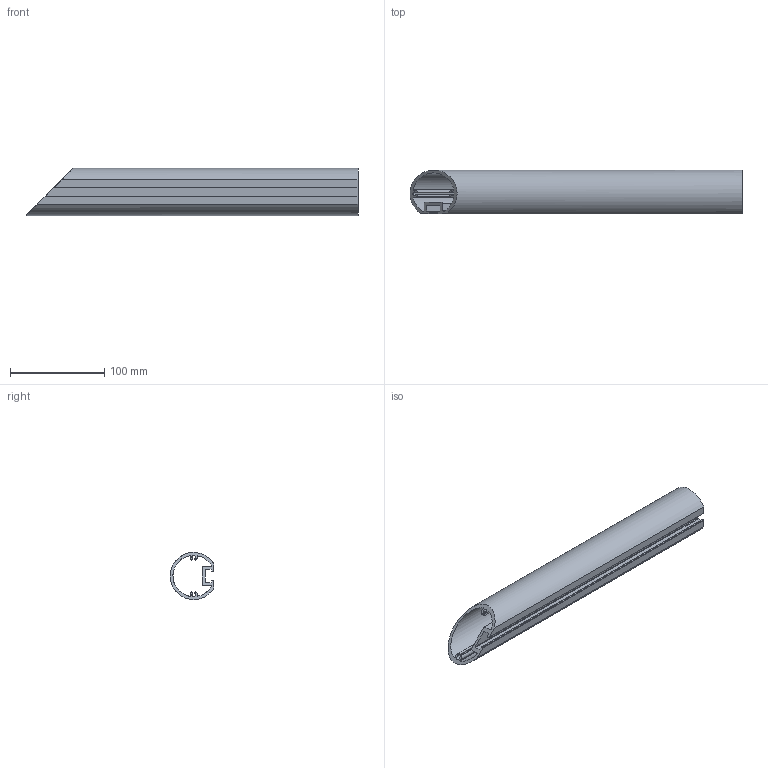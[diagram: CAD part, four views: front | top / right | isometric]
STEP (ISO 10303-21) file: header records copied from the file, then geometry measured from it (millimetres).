
FILE_DESCRIPTION(/* description */ (''),/* implementation_level */ '2;1');
FILE_NAME(/* name */ 'Pos132-HANDREGEL PROFIEL 50X47-Aluminium-1st',/* time_stamp */ '2024-08-06T11:49:44+02:00',/* author */ (''),/* organization */ (''),/* preprocessor_version */ 'ST-DEVELOPER v16.5',/* originating_system */ 'HiCAD 2024 2901.2 Build 361',/* authorisation */ '');
FILE_SCHEMA (('AUTOMOTIVE_DESIGN { 1 0 10303 214 1 1 1 1 }'));
Length unit declared in the file: millimetre
Products named in the file (1): Pos132-HANDREGEL PROFIEL 50X47-Aluminium-1st
Bounding box: 352.49 x 46.5 x 50 mm (x, y, z)
Volume: 180232.8 mm3; surface area: 123110.1 mm2
Topology: 1 solids, 1 shells, 44 faces, 126 edges, 84 vertices
Faces by surface type: cylinder 30, plane 14
Entity records: 2752 total; most frequent: DIRECTION 274, CARTESIAN_POINT 254, PRESENTATION_STYLE_ASSIGNMENT 253, COLOUR_RGB 253, DRAUGHTING_PRE_DEFINED_CURVE_FONT 252, CURVE_STYLE 252, OVER_RIDING_STYLED_ITEM 252, ORIENTED_EDGE 252
